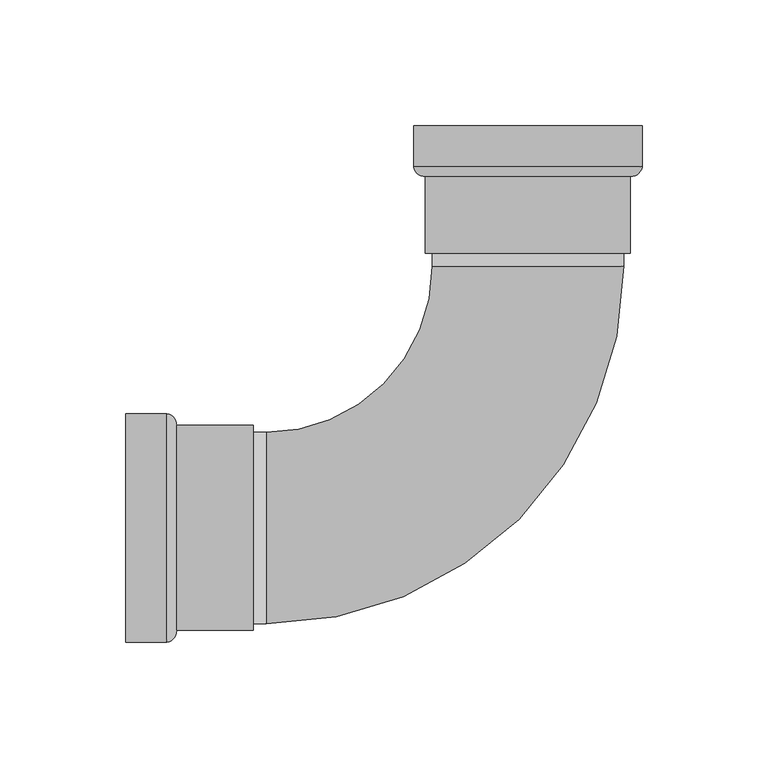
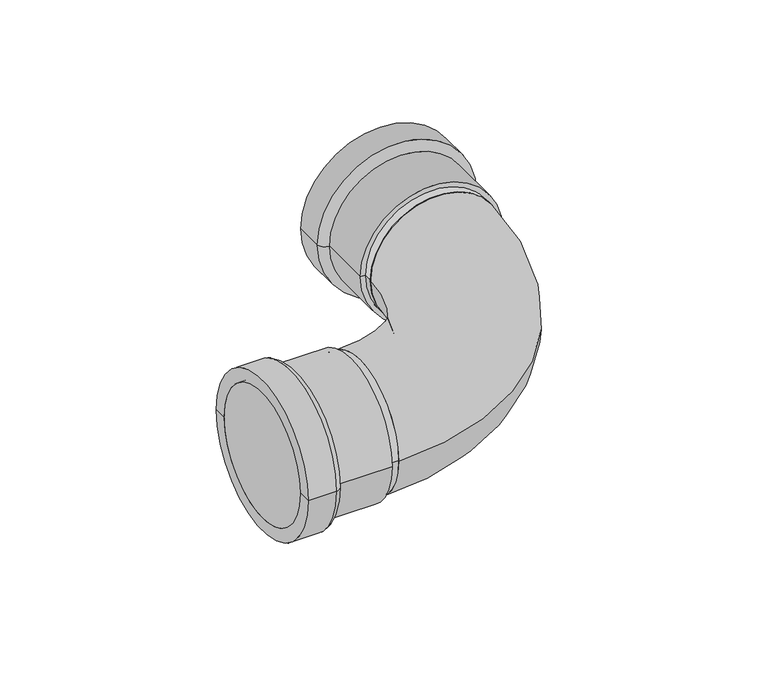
"""IFC4 building model written with IfcOpenShell, lengths in millimetres: pipe fitting geometry, VALTEC_VTi.951.I_Угольник 90° (раструб-раструб) нержавеющая сталь : VTi.951.I."""

from ifc_helpers import new_model, si_unit, point, frame, origin, origin_2d, place, context, project, spatial, polyline, circle_curve, ellipse_curve, trimmed, segment, composite_curve, outline, extrude, source, transform, mapped, element, save
from ifc_brep_helpers import plane_surface, cylinder_surface, revolved_surface, advanced_brep


def pipe_fitting_24a50106(model_context):
    return source(origin(), model_context, "Body", "SolidModel", [
        advanced_brep(
        [(-160.0, -38.05, 0.0), (-160.0, 38.05, 0.0), (-160.0, 45.5, 0.0), (-160.0, -45.5, 0.0), (-109.19, -38.05, 0.0), (-109.19, 38.05, 0.0), (-109.19, -40.75, 0.0), (-109.19, 40.75, 0.0), (-139.75, -40.75, 0.0), (-139.75, 40.75, 0.0), (-143.6, -45.5, 0.0), (-143.6, 45.5, 0.0)],
        [
            (0, 1, circle_curve(frame((-160.0, 0.0, 0.0), z_axis=(1.0, 0.0, 0.0), x_axis=(0.0, 1.0, 0.0)), 38.05)),
            (1, 2),
            (2, 3, circle_curve(frame((-160.0, 0.0, 0.0), z_axis=(-1.0, 0.0, 0.0), x_axis=(0.0, 1.0, 0.0)), 45.5)),
            (3, 0),
            (1, 0, circle_curve(frame((-160.0, 0.0, 0.0), z_axis=(1.0, 0.0, 0.0), x_axis=(0.0, 1.0, 0.0)), 38.05)),
            (3, 2, circle_curve(frame((-160.0, 0.0, 0.0), z_axis=(-1.0, 0.0, 0.0), x_axis=(0.0, 1.0, 0.0)), 45.5)),
            (4, 5, circle_curve(frame((-109.19, 0.0, 0.0), z_axis=(1.0, 0.0, 0.0), x_axis=(0.0, 1.0, 0.0)), 38.05)),
            (5, 1),
            (0, 4),
            (5, 4, circle_curve(frame((-109.19, 0.0, 0.0), z_axis=(1.0, 0.0, 0.0), x_axis=(0.0, 1.0, 0.0)), 38.05)),
            (6, 7, circle_curve(frame((-109.19, 0.0, 0.0), z_axis=(1.0, 0.0, 0.0), x_axis=(0.0, 1.0, 0.0)), 40.75)),
            (7, 5),
            (4, 6),
            (7, 6, circle_curve(frame((-109.19, 0.0, 0.0), z_axis=(1.0, 0.0, 0.0), x_axis=(0.0, 1.0, 0.0)), 40.75)),
            (8, 9, circle_curve(frame((-139.75, 0.0, 0.0), z_axis=(1.0, 0.0, 0.0), x_axis=(0.0, 1.0, 0.0)), 40.75)),
            (9, 7),
            (6, 8),
            (9, 8, circle_curve(frame((-139.75, 0.0, 0.0), z_axis=(1.0, 0.0, 0.0), x_axis=(0.0, 1.0, 0.0)), 40.75)),
            (10, 11, circle_curve(frame((-143.6, 0.0, 0.0), z_axis=(1.0, 0.0, 0.0), x_axis=(0.0, 1.0, 0.0)), 45.5)),
            (11, 9, circle_curve(frame((-144.4665873, 40.862345, 0.0), z_axis=(0.0, 0.0, -1.0), x_axis=(1.0, 0.0, 0.0)), 4.7179251)),
            (8, 10, circle_curve(frame((-144.4665873, -40.862345, 0.0), z_axis=(0.0, 0.0, -1.0), x_axis=(1.0, 0.0, 0.0)), 4.7179251)),
            (11, 10, circle_curve(frame((-143.6, 0.0, 0.0), z_axis=(1.0, 0.0, 0.0), x_axis=(0.0, 1.0, 0.0)), 45.5)),
            (2, 11),
            (10, 3),
        ],
        [
            plane_surface(frame((-160.0, 0.0, 0.0), z_axis=(-1.0, 0.0, 0.0), x_axis=(0.0, 1.0, 0.0))),
            revolved_surface(polyline([(-160.0, 38.05, 0.0), (-109.19, 38.05, 0.0)]), (-130.1506392, 0.0, 0.0), (-1.0, 0.0, 0.0)),
            plane_surface(frame((-109.19, 0.0, 0.0), z_axis=(1.0, 0.0, 0.0), x_axis=(0.0, 1.0, 0.0))),
            cylinder_surface(frame((-130.1506392, 0.0, 0.0), z_axis=(-1.0, 0.0, 0.0), x_axis=(0.0, 1.0, 0.0)), 40.75),
            revolved_surface(trimmed(ellipse_curve(frame((-144.4665873, 40.862345, 0.0), z_axis=(0.0, 0.0, 1.0), x_axis=(1.0, 0.0, 0.0)), 4.7179251, 4.7179251), [point((-139.75, 40.75, 0.0))], [point((-143.6, 45.5, 0.0))], True, "CARTESIAN"), (-130.1506392, 0.0, 0.0), (-1.0, 0.0, 0.0)),
            cylinder_surface(frame((-130.1506392, 0.0, 0.0), z_axis=(-1.0, 0.0, 0.0), x_axis=(0.0, 1.0, 0.0)), 45.5),
        ],
        [
            (0, [[1, 2, 3, 4]]),
            (0, [[5, -4, 6, -2]]),
            (1, [[7, 8, -1, 9]]),
            (1, [[10, -9, -5, -8]]),
            (2, [[11, 12, -7, 13]]),
            (2, [[14, -13, -10, -12]]),
            (3, [[15, 16, -11, 17]]),
            (3, [[18, -17, -14, -16]]),
            (4, [[19, 20, -15, 21]]),
            (4, [[22, -21, -18, -20]]),
            (5, [[-3, 23, -19, 24]]),
            (5, [[-6, -24, -22, -23]]),
        ],
    ),
        advanced_brep(
        [(-38.05, 160.0, 0.0), (38.05, 160.0, 0.0), (45.5, 160.0, 0.0), (-45.5, 160.0, 0.0), (-38.05, 109.19, 0.0), (38.05, 109.19, 0.0), (-40.75, 109.19, 0.0), (40.75, 109.19, 0.0), (-40.75, 139.75, 0.0), (40.75, 139.75, 0.0), (-45.5, 143.6, 0.0), (45.5, 143.6, 0.0)],
        [
            (0, 1, circle_curve(frame((0.0, 160.0, 0.0), z_axis=(0.0, -1.0, 0.0), x_axis=(1.0, 0.0, 0.0)), 38.05)),
            (1, 2),
            (2, 3, circle_curve(frame((0.0, 160.0, 0.0), z_axis=(0.0, 1.0, 0.0), x_axis=(1.0, 0.0, 0.0)), 45.5)),
            (3, 0),
            (1, 0, circle_curve(frame((0.0, 160.0, 0.0), z_axis=(0.0, -1.0, 0.0), x_axis=(1.0, 0.0, 0.0)), 38.05)),
            (3, 2, circle_curve(frame((0.0, 160.0, 0.0), z_axis=(0.0, 1.0, 0.0), x_axis=(1.0, 0.0, 0.0)), 45.5)),
            (4, 5, circle_curve(frame((0.0, 109.19, 0.0), z_axis=(0.0, -1.0, 0.0), x_axis=(1.0, 0.0, 0.0)), 38.05)),
            (5, 1),
            (0, 4),
            (5, 4, circle_curve(frame((0.0, 109.19, 0.0), z_axis=(0.0, -1.0, 0.0), x_axis=(1.0, 0.0, 0.0)), 38.05)),
            (6, 7, circle_curve(frame((0.0, 109.19, 0.0), z_axis=(0.0, -1.0, 0.0), x_axis=(1.0, 0.0, 0.0)), 40.75)),
            (7, 5),
            (4, 6),
            (7, 6, circle_curve(frame((0.0, 109.19, 0.0), z_axis=(0.0, -1.0, 0.0), x_axis=(1.0, 0.0, 0.0)), 40.75)),
            (8, 9, circle_curve(frame((0.0, 139.75, 0.0), z_axis=(0.0, -1.0, 0.0), x_axis=(1.0, 0.0, 0.0)), 40.75)),
            (9, 7),
            (6, 8),
            (9, 8, circle_curve(frame((0.0, 139.75, 0.0), z_axis=(0.0, -1.0, 0.0), x_axis=(1.0, 0.0, 0.0)), 40.75)),
            (10, 11, circle_curve(frame((0.0, 143.6, 0.0), z_axis=(0.0, -1.0, 0.0), x_axis=(1.0, 0.0, 0.0)), 45.5)),
            (11, 9, circle_curve(frame((40.862345, 144.4665873, 0.0), z_axis=(0.0, 0.0, -1.0), x_axis=(0.0, -1.0, 0.0)), 4.7179251)),
            (8, 10, circle_curve(frame((-40.862345, 144.4665873, 0.0), z_axis=(0.0, 0.0, -1.0), x_axis=(0.0, -1.0, 0.0)), 4.7179251)),
            (11, 10, circle_curve(frame((0.0, 143.6, 0.0), z_axis=(0.0, -1.0, 0.0), x_axis=(1.0, 0.0, 0.0)), 45.5)),
            (2, 11),
            (10, 3),
        ],
        [
            plane_surface(frame((0.0, 160.0, 0.0), z_axis=(0.0, 1.0, 0.0), x_axis=(1.0, 0.0, 0.0))),
            revolved_surface(polyline([(38.05, 160.0, 0.0), (38.05, 109.19, 0.0)]), (0.0, 130.1506392, 0.0), (0.0, 1.0, 0.0)),
            plane_surface(frame((0.0, 109.19, 0.0), z_axis=(0.0, -1.0, 0.0), x_axis=(1.0, 0.0, 0.0))),
            cylinder_surface(frame((0.0, 130.1506392, 0.0), z_axis=(0.0, 1.0, 0.0), x_axis=(1.0, 0.0, 0.0)), 40.75),
            revolved_surface(trimmed(ellipse_curve(frame((40.862345, 144.4665873, 0.0), z_axis=(0.0, 0.0, 1.0), x_axis=(0.0, -1.0, 0.0)), 4.7179251, 4.7179251), [point((40.75, 139.75, 0.0))], [point((45.5, 143.6, 0.0))], True, "CARTESIAN"), (0.0, 130.1506392, 0.0), (0.0, 1.0, 0.0)),
            cylinder_surface(frame((0.0, 130.1506392, 0.0), z_axis=(0.0, 1.0, 0.0), x_axis=(1.0, 0.0, 0.0)), 45.5),
        ],
        [
            (0, [[1, 2, 3, 4]]),
            (0, [[5, -4, 6, -2]]),
            (1, [[7, 8, -1, 9]]),
            (1, [[10, -9, -5, -8]]),
            (2, [[11, 12, -7, 13]]),
            (2, [[14, -13, -10, -12]]),
            (3, [[15, 16, -11, 17]]),
            (3, [[18, -17, -14, -16]]),
            (4, [[19, 20, -15, 21]]),
            (4, [[22, -21, -18, -20]]),
            (5, [[-3, 23, -19, 24]]),
            (5, [[-6, -24, -22, -23]]),
        ],
    ),
        extrude(outline(composite_curve([segment(trimmed(circle_curve(origin_2d(), 38.05), [point((-38.05, 0.0))], [point((38.05, 0.0))], False, "CARTESIAN"), True, "CONTINUOUS"), segment(trimmed(circle_curve(origin_2d(), 38.05), [point((38.05, 0.0))], [point((-38.05, 0.0))], False, "CARTESIAN"), True, "CONTINUOUS")], self_intersect=False)), frame((-160.0, 0.0, 0.0), z_axis=(1.0, 0.0, 0.0), x_axis=(0.0, 1.0, 0.0)), (0.0, 0.0, 1.0), 56.0),
        extrude(outline(composite_curve([segment(trimmed(circle_curve(origin_2d(), 38.05), [point((0.0, -38.05))], [point((0.0, 38.05))], False, "CARTESIAN"), True, "CONTINUOUS"), segment(trimmed(circle_curve(origin_2d(), 38.05), [point((0.0, 38.05))], [point((0.0, -38.05))], False, "CARTESIAN"), True, "CONTINUOUS")], self_intersect=False)), frame((0.0, 104.0, 0.0), z_axis=(0.0, 1.0, 0.0), x_axis=(0.0, 0.0, 1.0)), (0.0, 0.0, 1.0), 56.0),
        advanced_brep(
        [(-104.0, -38.1051605, 0.0), (-104.0, 37.9948395, 0.0), (38.1051605, 104.0, 0.0), (-37.9948395, 104.0, 0.0)],
        [
            (0, 1, circle_curve(frame((-104.0, -0.0551605, 0.0), z_axis=(-1.0, 0.0, 0.0), x_axis=(0.0, 1.0, 0.0)), 38.05)),
            (1, 0, circle_curve(frame((-104.0, -0.0551605, 0.0), z_axis=(-1.0, 0.0, 0.0), x_axis=(0.0, 1.0, 0.0)), 38.05)),
            (2, 3, circle_curve(frame((0.0551605, 104.0, 0.0), z_axis=(0.0, 1.0, 0.0), x_axis=(-1.0, 0.0, 0.0)), 38.05)),
            (3, 2, circle_curve(frame((0.0551605, 104.0, 0.0), z_axis=(0.0, 1.0, 0.0), x_axis=(-1.0, 0.0, 0.0)), 38.05)),
            (3, 1, circle_curve(frame((-104.0, 104.0, 0.0), z_axis=(0.0, 0.0, -1.0), x_axis=(0.0, -1.0, 0.0)), 66.0051605)),
            (0, 2, circle_curve(frame((-104.0, 104.0, 0.0), z_axis=(0.0, 0.0, 1.0), x_axis=(0.0, -1.0, 0.0)), 142.1051605)),
        ],
        [
            plane_surface(frame((-104.0, 0.0, 0.0), z_axis=(-1.0, 0.0, 0.0), x_axis=(0.0, 0.0, 1.0))),
            plane_surface(frame((0.0, 104.0, 0.0), z_axis=(0.0, 1.0, 0.0), x_axis=(0.0, 0.0, 1.0))),
            revolved_surface(trimmed(ellipse_curve(frame((-104.0, -0.0551605, 0.0), z_axis=(-1.0, 0.0, 0.0), x_axis=(0.0, 1.0, 0.0)), 38.05, 38.05), [point((-104.0, -38.1051605, 0.0))], [point((-104.0, 37.9948395, 0.0))], True, "CARTESIAN"), (-104.0, 104.0, 0.0), (0.0, 0.0, 1.0)),
            revolved_surface(trimmed(ellipse_curve(frame((-104.0, -0.0551605, 0.0), z_axis=(-1.0, 0.0, 0.0), x_axis=(0.0, 1.0, 0.0)), 38.05, 38.05), [point((-104.0, 37.9948395, 0.0))], [point((-104.0, -38.1051605, 0.0))], True, "CARTESIAN"), (-104.0, 104.0, 0.0), (0.0, 0.0, 1.0)),
        ],
        [
            (0, [[1, 2]]),
            (1, [[3, 4]]),
            (2, [[5, -1, 6, -4]]),
            (3, [[-6, -2, -5, -3]]),
        ],
    ),
    ])


if __name__ == "__main__":
    model = new_model("IFC4")
    model_context = context("Model", 3, world=origin())
    ifc_project = project(units=[si_unit("LENGTHUNIT", "METRE", prefix="MILLI")], contexts=[model_context])
    site = spatial("IfcSite", under=ifc_project)
    building = spatial("IfcBuilding", under=site)
    placement = place(None, origin())
    pipe_fitting_shape = pipe_fitting_24a50106(model_context)
    element("IfcPipeFitting", 1, ObjectType="VALTEC_VTi.951.I_Угольник 90° (раструб-раструб) нержавеющая сталь : VTi.951.I", at=placement, inside=building, context=model_context, shape_type="MappedRepresentation", body=[
        mapped(pipe_fitting_shape, transform((0.0, 0.0, 0.0), x_axis=(1.0, 0.0, 0.0), y_axis=(0.0, 1.0, 0.0), z_axis=(0.0, 0.0, 1.0))),
    ])
    save(model, "model.ifc")
